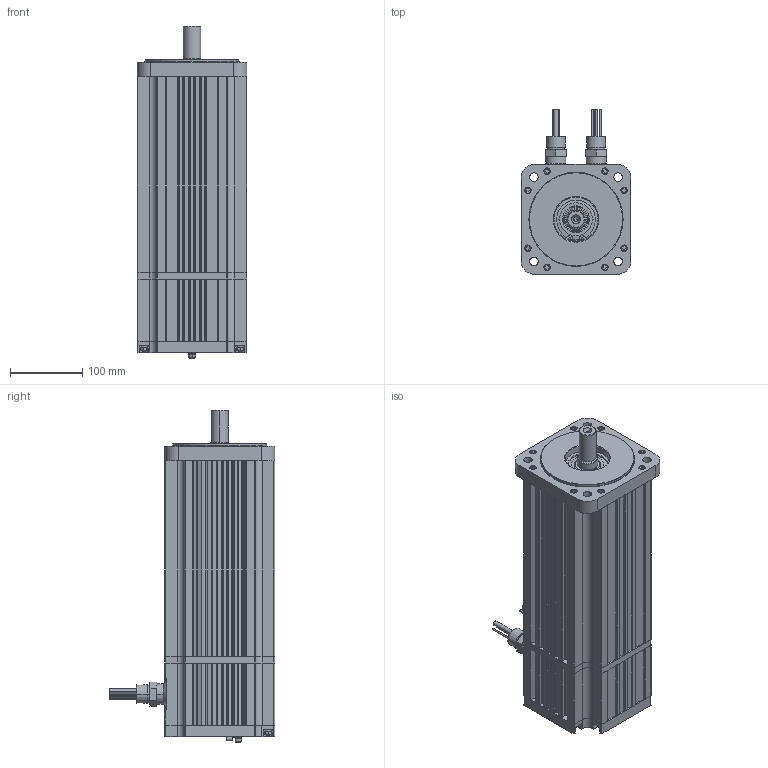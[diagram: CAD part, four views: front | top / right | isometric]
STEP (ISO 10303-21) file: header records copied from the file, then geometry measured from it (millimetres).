
FILE_DESCRIPTION (( 'STEP AP203' ), '1' );
FILE_NAME ('M462-GNSB-9T08.STEP', '2013-09-10T20:01:39', ( '' ), ( '' ), 'SwSTEP 2.0', 'SolidWorks 2013', '' );
FILE_SCHEMA (( 'CONFIG_CONTROL_DESIGN' ));
Products named in the file (1): M462-GNSB-9T08
Bounding box: 152.4 x 229.36 x 460.04 mm (x, y, z)
Volume: 4052018.1 mm3; surface area: 780337.6 mm2
Topology: 68 solids, 68 shells, 2202 faces, 5284 edges, 3358 vertices
Faces by surface type: cylinder 973, plane 843, cone 235, torus 111, bspline 40
Entity records: 69072 total; most frequent: CARTESIAN_POINT 16493, DIRECTION 11570, ORIENTED_EDGE 10448, EDGE_CURVE 5224, AXIS2_PLACEMENT_3D 4468, VERTEX_POINT 3358, LINE 2634, VECTOR 2634
